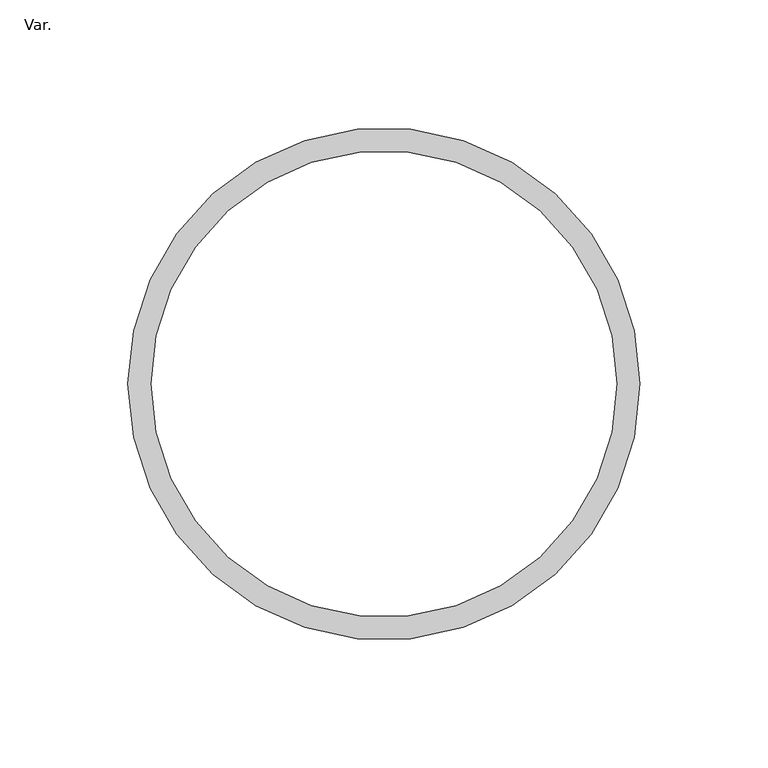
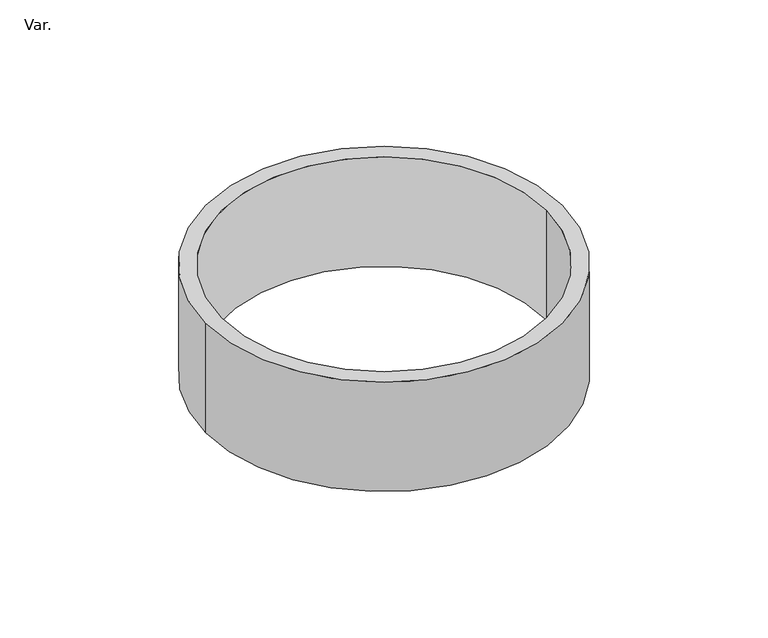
"""IFC4 building model written with IfcOpenShell, lengths in millimetres: pipe fitting geometry, Z_PAVCO_PVC QS_Sistema Emergencia Canal Metálica (nested) : Var.."""

from ifc_helpers import new_model, si_unit, point, origin, origin_with_axes, origin_2d, place, context, project, spatial, circle_curve, trimmed, segment, composite_curve, outline, extrude, source, transform, mapped, element, save


def var_630bf9bb(model_context):
    return source(origin(), model_context, "Body", "SweptSolid", [
        extrude(outline(composite_curve([segment(trimmed(circle_curve(origin_2d(), 100.0), [point((-100.0, 0.0))], [point((100.0, 0.0))], False, "CARTESIAN"), True, "CONTINUOUS"), segment(trimmed(circle_curve(origin_2d(), 100.0), [point((100.0, 0.0))], [point((-100.0, 0.0))], False, "CARTESIAN"), True, "CONTINUOUS")], self_intersect=False), holes=[composite_curve([segment(trimmed(circle_curve(origin_2d(), 91.0), [point((-91.0, 0.0))], [point((91.0, 0.0))], True, "CARTESIAN"), True, "CONTINUOUS"), segment(trimmed(circle_curve(origin_2d(), 91.0), [point((91.0, 0.0))], [point((-91.0, 0.0))], True, "CARTESIAN"), True, "CONTINUOUS")], self_intersect=False)]), origin_with_axes(), (0.0, 0.0, 1.0), 65.0),
    ])


if __name__ == "__main__":
    model = new_model("IFC4")
    model_context = context("Model", 3, world=origin())
    ifc_project = project(units=[si_unit("LENGTHUNIT", "METRE", prefix="MILLI")], contexts=[model_context])
    site = spatial("IfcSite", under=ifc_project)
    building = spatial("IfcBuilding", under=site)
    placement = place(None, origin())
    var_shape = var_630bf9bb(model_context)
    element("IfcPipeFitting", 1, ObjectType="Z_PAVCO_PVC QS_Sistema Emergencia Canal Metálica (nested) : Var.", at=placement, inside=building, context=model_context, shape_type="MappedRepresentation", body=[
        mapped(var_shape, transform((0.0, 0.0, 0.0), x_axis=(1.0, 0.0, 0.0), y_axis=(0.0, 1.0, 0.0), z_axis=(0.0, 0.0, 1.0))),
    ])
    save(model, "model.ifc")
